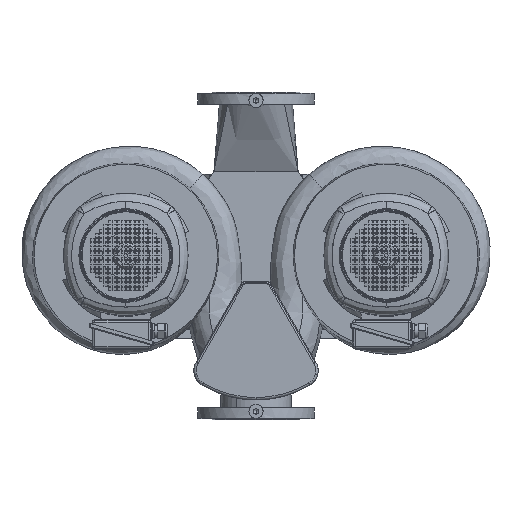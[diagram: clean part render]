
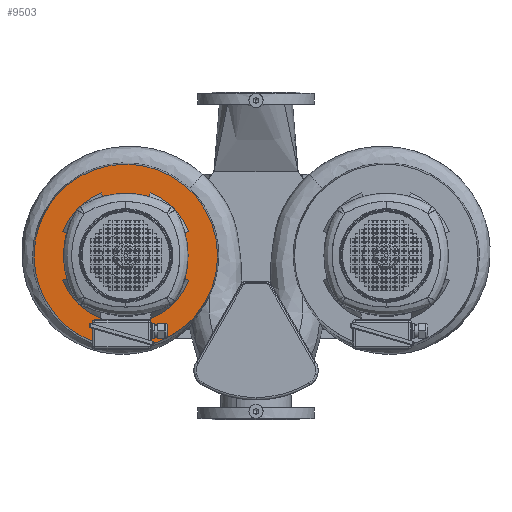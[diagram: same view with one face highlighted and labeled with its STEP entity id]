
A CAD part, top view. The second image highlights one B-rep face of the part: STEP entity #9503.
In plain terms, the highlighted planar face has unit normal (0, 0, 1) as drawn and (1, 0, 0) by its records, which use the part's own axes.
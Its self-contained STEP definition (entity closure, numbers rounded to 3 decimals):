
#9503=ADVANCED_FACE('',(#19339,#19340),#19341,.T.);
#9527=EDGE_CURVE('',#19380,#19381,#19382,.T.);
#9551=EDGE_CURVE('',#19424,#19425,#19426,.T.);
#9559=EDGE_CURVE('',#19434,#19437,#19438,.T.);
#9567=EDGE_CURVE('',#19446,#19449,#19450,.T.);
#9573=EDGE_CURVE('',#19453,#19425,#19458,.T.);
#9575=EDGE_CURVE('',#19460,#19437,#19461,.T.);
#9583=EDGE_CURVE('',#19472,#19468,#19473,.T.);
#9591=EDGE_CURVE('',#19483,#19479,#19484,.T.);
#9599=EDGE_CURVE('',#19490,#19493,#19494,.T.);
#9609=EDGE_CURVE('',#19504,#19434,#19507,.T.);
#9615=EDGE_CURVE('',#19512,#19446,#19515,.T.);
#9623=EDGE_CURVE('',#19523,#19518,#19526,.T.);
#9625=EDGE_CURVE('',#19449,#19468,#19528,.T.);
#9629=EDGE_CURVE('',#19518,#19479,#19532,.T.);
#9633=EDGE_CURVE('',#19493,#19424,#19536,.T.);
#9637=EDGE_CURVE('',#19460,#19512,#19540,.T.);
#9641=EDGE_CURVE('',#19472,#19523,#19544,.T.);
#9643=EDGE_CURVE('',#19453,#19504,#19546,.T.);
#9647=EDGE_CURVE('',#19381,#19380,#19550,.T.);
#9649=EDGE_CURVE('',#19483,#19490,#19552,.T.);
#19339=FACE_OUTER_BOUND('',#48156,.T.);
#19340=FACE_BOUND('',#48157,.T.);
#19341=PLANE('',#48158);
#19380=VERTEX_POINT('',#48199);
#19381=VERTEX_POINT('',#48200);
#19382=CIRCLE('',#48201,196.0);
#19424=VERTEX_POINT('',#48255);
#19425=VERTEX_POINT('',#48256);
#19426=CIRCLE('',#48257,132.799);
#19434=VERTEX_POINT('',#48277);
#19437=VERTEX_POINT('',#48290);
#19438=CIRCLE('',#48291,132.799);
#19446=VERTEX_POINT('',#48311);
#19449=VERTEX_POINT('',#48324);
#19450=CIRCLE('',#48325,132.799);
#19453=VERTEX_POINT('',#48329);
#19458=LINE('',#48346,#48347);
#19460=VERTEX_POINT('',#48350);
#19461=LINE('',#48351,#48352);
#19468=VERTEX_POINT('',#48372);
#19472=VERTEX_POINT('',#48386);
#19473=LINE('',#48387,#48388);
#19479=VERTEX_POINT('',#48407);
#19483=VERTEX_POINT('',#48421);
#19484=LINE('',#48422,#48423);
#19490=VERTEX_POINT('',#48442);
#19493=VERTEX_POINT('',#48455);
#19494=LINE('',#48456,#48457);
#19504=VERTEX_POINT('',#48482);
#19507=LINE('',#48495,#48496);
#19512=VERTEX_POINT('',#48504);
#19515=LINE('',#48517,#48518);
#19518=VERTEX_POINT('',#48522);
#19523=VERTEX_POINT('',#48539);
#19526=LINE('',#48552,#48553);
#19528=CIRCLE('',#48556,132.799);
#19532=CIRCLE('',#48562,132.799);
#19536=CIRCLE('',#48568,132.799);
#19540=CIRCLE('',#48574,144.0);
#19544=CIRCLE('',#48580,144.0);
#19546=CIRCLE('',#48583,144.0);
#19550=CIRCLE('',#48589,196.0);
#19552=CIRCLE('',#48592,144.0);
#48156=EDGE_LOOP('',(#72941,#72942));
#48157=EDGE_LOOP('',(#72943,#72944,#72945,#72946,#72947,#72948,#72949,#72950,#72951,#72952,#72953,#72954,#72955,#72956,#72957,#72958,#72959,#72960));
#48158=AXIS2_PLACEMENT_3D('',#72961,#72962,#72963);
#48199=CARTESIAN_POINT('',(20.0,196.0,0.0));
#48200=CARTESIAN_POINT('',(20.0,-196.0,0.));
#48201=AXIS2_PLACEMENT_3D('',#73063,#73064,#73065);
#48255=CARTESIAN_POINT('',(20.0,-132.799,0.));
#48256=CARTESIAN_POINT('',(20.0,-123.51,-48.794));
#48257=AXIS2_PLACEMENT_3D('',#73099,#73100,#73101);
#48277=CARTESIAN_POINT('',(20.0,-48.794,-123.51));
#48290=CARTESIAN_POINT('',(20.0,48.794,-123.51));
#48291=AXIS2_PLACEMENT_3D('',#73105,#73106,#73107);
#48311=CARTESIAN_POINT('',(20.0,123.51,-48.794));
#48324=CARTESIAN_POINT('',(20.0,132.799,0.));
#48325=AXIS2_PLACEMENT_3D('',#73111,#73112,#73113);
#48329=CARTESIAN_POINT('',(20.0,-134.395,-51.711));
#48346=CARTESIAN_POINT('',(20.0,-134.395,-51.711));
#48347=VECTOR('',#73115,1.0);
#48350=CARTESIAN_POINT('',(20.0,51.711,-134.395));
#48351=CARTESIAN_POINT('',(20.0,51.711,-134.395));
#48352=VECTOR('',#73116,1.0);
#48372=CARTESIAN_POINT('',(20.0,123.51,48.794));
#48386=CARTESIAN_POINT('',(20.0,134.395,51.711));
#48387=CARTESIAN_POINT('',(20.0,134.395,51.711));
#48388=VECTOR('',#73118,1.0);
#48407=CARTESIAN_POINT('',(20.0,-48.794,123.51));
#48421=CARTESIAN_POINT('',(20.0,-51.711,134.395));
#48422=CARTESIAN_POINT('',(20.0,-51.711,134.395));
#48423=VECTOR('',#73120,1.0);
#48442=CARTESIAN_POINT('',(20.0,-134.395,51.711));
#48455=CARTESIAN_POINT('',(20.0,-123.51,48.794));
#48456=CARTESIAN_POINT('',(20.0,-134.395,51.711));
#48457=VECTOR('',#73122,1.0);
#48482=CARTESIAN_POINT('',(20.0,-51.711,-134.395));
#48495=CARTESIAN_POINT('',(20.0,-51.711,-134.395));
#48496=VECTOR('',#73125,1.0);
#48504=CARTESIAN_POINT('',(20.0,134.395,-51.711));
#48517=CARTESIAN_POINT('',(20.0,134.395,-51.711));
#48518=VECTOR('',#73127,1.0);
#48522=CARTESIAN_POINT('',(20.0,48.794,123.51));
#48539=CARTESIAN_POINT('',(20.0,51.711,134.395));
#48552=CARTESIAN_POINT('',(20.0,51.711,134.395));
#48553=VECTOR('',#73129,1.0);
#48556=AXIS2_PLACEMENT_3D('',#73130,#73131,#73132);
#48562=AXIS2_PLACEMENT_3D('',#73136,#73137,#73138);
#48568=AXIS2_PLACEMENT_3D('',#73142,#73143,#73144);
#48574=AXIS2_PLACEMENT_3D('',#73148,#73149,#73150);
#48580=AXIS2_PLACEMENT_3D('',#73154,#73155,#73156);
#48583=AXIS2_PLACEMENT_3D('',#73157,#73158,#73159);
#48589=AXIS2_PLACEMENT_3D('',#73163,#73164,#73165);
#48592=AXIS2_PLACEMENT_3D('',#73166,#73167,#73168);
#72941=ORIENTED_EDGE('',*,*,#9527,.T.);
#72942=ORIENTED_EDGE('',*,*,#9647,.T.);
#72943=ORIENTED_EDGE('',*,*,#9649,.F.);
#72944=ORIENTED_EDGE('',*,*,#9591,.T.);
#72945=ORIENTED_EDGE('',*,*,#9629,.F.);
#72946=ORIENTED_EDGE('',*,*,#9623,.F.);
#72947=ORIENTED_EDGE('',*,*,#9641,.F.);
#72948=ORIENTED_EDGE('',*,*,#9583,.T.);
#72949=ORIENTED_EDGE('',*,*,#9625,.F.);
#72950=ORIENTED_EDGE('',*,*,#9567,.F.);
#72951=ORIENTED_EDGE('',*,*,#9615,.F.);
#72952=ORIENTED_EDGE('',*,*,#9637,.F.);
#72953=ORIENTED_EDGE('',*,*,#9575,.T.);
#72954=ORIENTED_EDGE('',*,*,#9559,.F.);
#72955=ORIENTED_EDGE('',*,*,#9609,.F.);
#72956=ORIENTED_EDGE('',*,*,#9643,.F.);
#72957=ORIENTED_EDGE('',*,*,#9573,.T.);
#72958=ORIENTED_EDGE('',*,*,#9551,.F.);
#72959=ORIENTED_EDGE('',*,*,#9633,.F.);
#72960=ORIENTED_EDGE('',*,*,#9599,.F.);
#72961=CARTESIAN_POINT('',(20.0,170.0,0.0));
#72962=DIRECTION('',(1.0,0.0,0.0));
#72963=DIRECTION('',(0.0,0.0,-1.0));
#73063=CARTESIAN_POINT('',(20.0,0.0,0.0));
#73064=DIRECTION('',(1.0,0.0,0.0));
#73065=DIRECTION('',(0.0,1.0,0.0));
#73099=CARTESIAN_POINT('',(20.0,0.0,0.0));
#73100=DIRECTION('',(1.0,0.0,0.0));
#73101=DIRECTION('',(0.0,1.0,0.0));
#73105=CARTESIAN_POINT('',(20.0,0.0,0.0));
#73106=DIRECTION('',(1.0,0.0,0.0));
#73107=DIRECTION('',(0.0,1.0,0.0));
#73111=CARTESIAN_POINT('',(20.0,0.0,0.0));
#73112=DIRECTION('',(1.0,0.0,0.0));
#73113=DIRECTION('',(0.0,1.0,0.0));
#73115=DIRECTION('',(0.,0.966,0.259));
#73116=DIRECTION('',(0.,-0.259,0.966));
#73118=DIRECTION('',(0.,-0.966,-0.259));
#73120=DIRECTION('',(0.,0.259,-0.966));
#73122=DIRECTION('',(0.,0.966,-0.259));
#73125=DIRECTION('',(0.,0.259,0.966));
#73127=DIRECTION('',(0.,-0.966,0.259));
#73129=DIRECTION('',(0.,-0.259,-0.966));
#73130=CARTESIAN_POINT('',(20.0,0.0,0.0));
#73131=DIRECTION('',(1.0,0.0,0.0));
#73132=DIRECTION('',(0.0,1.0,0.0));
#73136=CARTESIAN_POINT('',(20.0,0.0,0.0));
#73137=DIRECTION('',(1.0,0.0,0.0));
#73138=DIRECTION('',(0.0,1.0,0.0));
#73142=CARTESIAN_POINT('',(20.0,0.0,0.0));
#73143=DIRECTION('',(1.0,0.0,0.0));
#73144=DIRECTION('',(0.0,1.0,0.0));
#73148=CARTESIAN_POINT('',(20.0,0.0,0.0));
#73149=DIRECTION('',(1.0,0.0,0.0));
#73150=DIRECTION('',(0.0,1.0,0.0));
#73154=CARTESIAN_POINT('',(20.0,0.0,0.0));
#73155=DIRECTION('',(1.0,0.0,0.0));
#73156=DIRECTION('',(0.0,1.0,0.0));
#73157=CARTESIAN_POINT('',(20.0,0.0,0.0));
#73158=DIRECTION('',(1.0,0.0,0.0));
#73159=DIRECTION('',(0.0,1.0,0.0));
#73163=CARTESIAN_POINT('',(20.0,0.0,0.0));
#73164=DIRECTION('',(1.0,0.0,0.0));
#73165=DIRECTION('',(0.0,1.0,0.0));
#73166=CARTESIAN_POINT('',(20.0,0.0,0.0));
#73167=DIRECTION('',(1.0,0.0,0.0));
#73168=DIRECTION('',(0.0,1.0,0.0));
